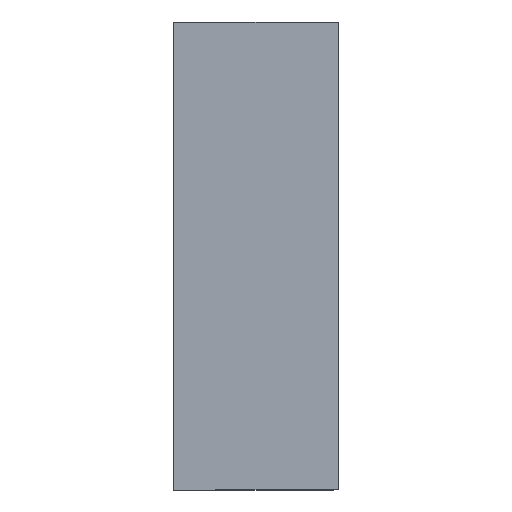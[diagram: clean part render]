
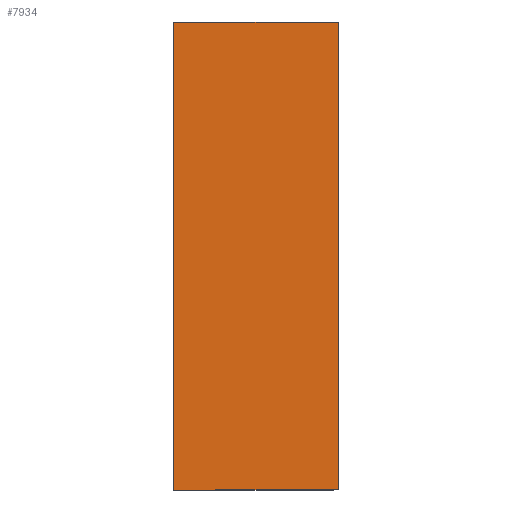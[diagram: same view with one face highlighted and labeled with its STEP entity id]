
A CAD part, front view. The second image highlights one B-rep face of the part: STEP entity #7934.
In plain terms, the highlighted planar face has unit normal (0, -1, 0).
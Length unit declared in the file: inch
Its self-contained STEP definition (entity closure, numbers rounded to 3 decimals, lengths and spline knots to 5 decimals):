
#1419 = CARTESIAN_POINT ( 'NONE',  ( 118.8, 0.5, -45.11913 ) ) ;
#1844 = DIRECTION ( 'NONE',  ( 0., 1., 0. ) ) ;
#2004 = CARTESIAN_POINT ( 'NONE',  ( 108., 0.5, -4.51913 ) ) ;
#2736 = EDGE_CURVE ( 'NONE', #9642, #41351, #28354, .T. ) ;
#3839 = VECTOR ( 'NONE', #28312, 39.37008 ) ;
#3967 = ORIENTED_EDGE ( 'NONE', *, *, #18132, .F. ) ;
#4442 = VERTEX_POINT ( 'NONE', #33063 ) ;
#4632 = CARTESIAN_POINT ( 'NONE',  ( 0., 0.5, -45.11913 ) ) ;
#4729 = EDGE_CURVE ( 'NONE', #39948, #4442, #11239, .T. ) ;
#5131 = DIRECTION ( 'NONE',  ( -1., 0., 0. ) ) ;
#7784 = DIRECTION ( 'NONE',  ( -1., 0., 0. ) ) ;
#7841 = CARTESIAN_POINT ( 'NONE',  ( 118.8, 0.5, -4.51913 ) ) ;
#7934 = ADVANCED_FACE ( 'NONE', ( #25078 ), #31872, .F. ) ;
#8624 = CARTESIAN_POINT ( 'NONE',  ( 108., 0.5, -45.11913 ) ) ;
#9642 = VERTEX_POINT ( 'NONE', #2004 ) ;
#11239 = LINE ( 'NONE', #4632, #3839 ) ;
#13681 = ORIENTED_EDGE ( 'NONE', *, *, #2736, .F. ) ;
#15205 = DIRECTION ( 'NONE',  ( 0., 0., -1. ) ) ;
#15550 = VECTOR ( 'NONE', #17486, 39.37008 ) ;
#16489 = VECTOR ( 'NONE', #5131, 39.37008 ) ;
#17486 = DIRECTION ( 'NONE',  ( 1., 0., 0. ) ) ;
#18132 = EDGE_CURVE ( 'NONE', #41351, #39948, #28601, .T. ) ;
#20986 = EDGE_CURVE ( 'NONE', #4442, #9642, #40756, .T. ) ;
#21328 = CARTESIAN_POINT ( 'NONE',  ( 0., 0.5, -42.51913 ) ) ;
#25078 = FACE_OUTER_BOUND ( 'NONE', #38891, .T. ) ;
#28312 = DIRECTION ( 'NONE',  ( 0., 0., 1. ) ) ;
#28354 = LINE ( 'NONE', #8624, #42363 ) ;
#28601 = LINE ( 'NONE', #35394, #16489 ) ;
#29428 = AXIS2_PLACEMENT_3D ( 'NONE', #1419, #1844, #7784 ) ;
#31872 = PLANE ( 'NONE',  #29428 ) ;
#32014 = CARTESIAN_POINT ( 'NONE',  ( 108., 0.5, -42.51913 ) ) ;
#33063 = CARTESIAN_POINT ( 'NONE',  ( 0., 0.5, -4.51913 ) ) ;
#35394 = CARTESIAN_POINT ( 'NONE',  ( -10.8, 0.5, -42.51913 ) ) ;
#38891 = EDGE_LOOP ( 'NONE', ( #40877, #3967, #13681, #40980 ) ) ;
#39948 = VERTEX_POINT ( 'NONE', #21328 ) ;
#40756 = LINE ( 'NONE', #7841, #15550 ) ;
#40877 = ORIENTED_EDGE ( 'NONE', *, *, #4729, .F. ) ;
#40980 = ORIENTED_EDGE ( 'NONE', *, *, #20986, .F. ) ;
#41351 = VERTEX_POINT ( 'NONE', #32014 ) ;
#42363 = VECTOR ( 'NONE', #15205, 39.37008 ) ;
